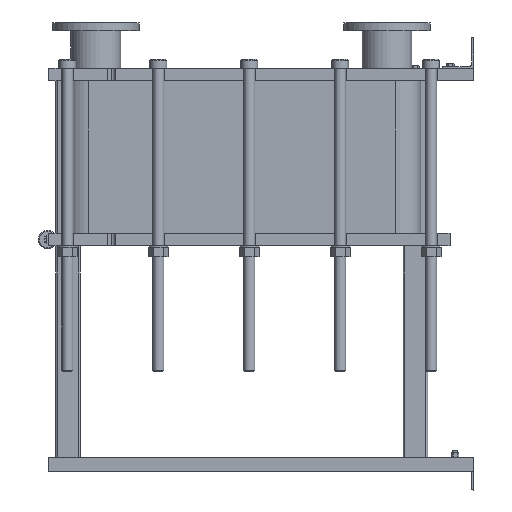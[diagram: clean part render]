
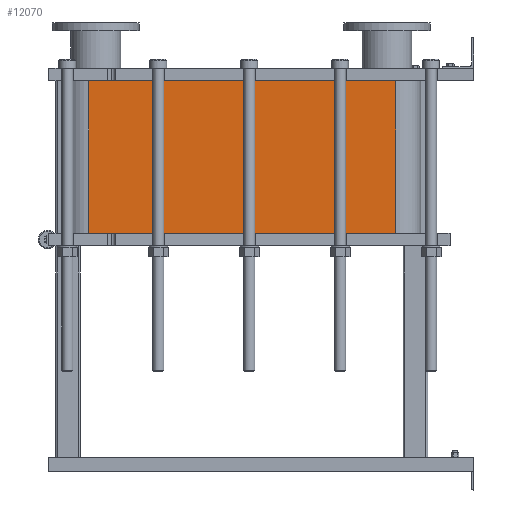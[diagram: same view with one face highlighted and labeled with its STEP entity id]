
A CAD part, left-side view. The second image highlights one B-rep face of the part: STEP entity #12070.
In plain terms, the highlighted planar face has unit normal (-1, 0, 0).
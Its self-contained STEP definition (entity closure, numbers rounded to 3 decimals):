
#1064=LINE('',#21140,#2164);
#1065=LINE('',#21144,#2165);
#1066=LINE('',#21146,#2166);
#1067=LINE('',#21147,#2167);
#2164=VECTOR('',#15790,10.);
#2165=VECTOR('',#15795,10.);
#2166=VECTOR('',#15796,10.);
#2167=VECTOR('',#15797,10.);
#3304=FACE_OUTER_BOUND('',#4091,.T.);
#4091=EDGE_LOOP('',(#9793,#9794,#9795,#9796));
#5677=VERTEX_POINT('',#21137);
#5678=VERTEX_POINT('',#21139);
#5679=VERTEX_POINT('',#21143);
#5680=VERTEX_POINT('',#21145);
#7118=EDGE_CURVE('',#5678,#5677,#1064,.T.);
#7120=EDGE_CURVE('',#5677,#5679,#1065,.T.);
#7121=EDGE_CURVE('',#5680,#5679,#1066,.T.);
#7122=EDGE_CURVE('',#5680,#5678,#1067,.T.);
#9793=ORIENTED_EDGE('',*,*,#7120,.T.);
#9794=ORIENTED_EDGE('',*,*,#7121,.F.);
#9795=ORIENTED_EDGE('',*,*,#7122,.T.);
#9796=ORIENTED_EDGE('',*,*,#7118,.T.);
#11441=PLANE('',#13191);
#12070=ADVANCED_FACE('',(#3304),#11441,.T.);
#13191=AXIS2_PLACEMENT_3D('',#21142,#15793,#15794);
#15790=DIRECTION('',(0.,0.,-1.));
#15793=DIRECTION('center_axis',(-1.,0.,0.));
#15794=DIRECTION('ref_axis',(0.,1.,0.));
#15795=DIRECTION('',(0.,-1.,0.));
#15796=DIRECTION('',(0.,0.,-1.));
#15797=DIRECTION('',(0.,1.,0.));
#21137=CARTESIAN_POINT('',(-248.152,1243.818,-493.35));
#21139=CARTESIAN_POINT('',(-248.152,1243.818,0.));
#21140=CARTESIAN_POINT('',(-248.152,1243.818,0.));
#21142=CARTESIAN_POINT('Origin',(-248.152,251.818,0.));
#21143=CARTESIAN_POINT('',(-248.152,251.818,-493.35));
#21144=CARTESIAN_POINT('',(-248.152,499.818,-493.35));
#21145=CARTESIAN_POINT('',(-248.152,251.818,0.));
#21146=CARTESIAN_POINT('',(-248.152,251.818,0.));
#21147=CARTESIAN_POINT('',(-248.152,251.818,0.));
